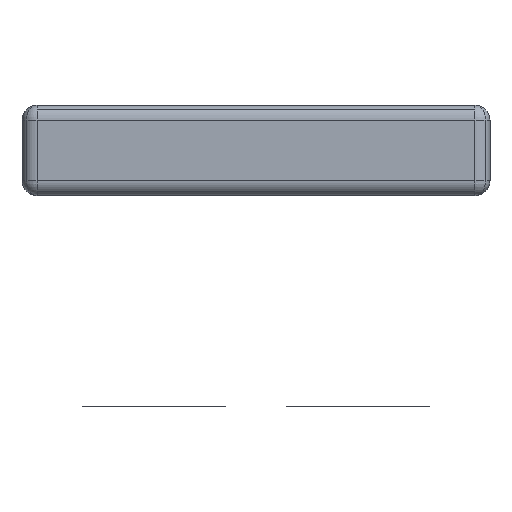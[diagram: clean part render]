
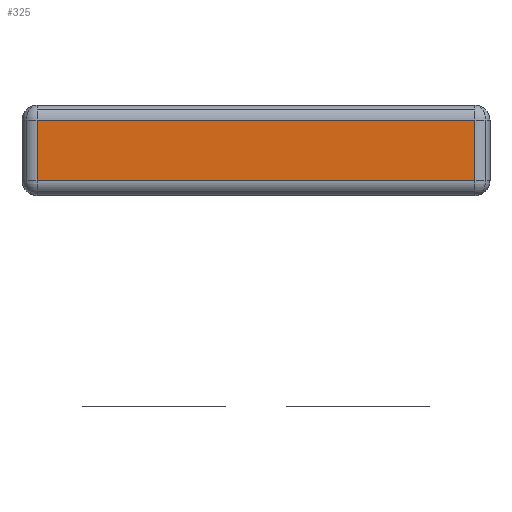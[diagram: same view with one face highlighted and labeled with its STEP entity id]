
A CAD part, front view. The second image highlights one B-rep face of the part: STEP entity #325.
In plain terms, the highlighted planar face has unit normal (0, -1, 0).
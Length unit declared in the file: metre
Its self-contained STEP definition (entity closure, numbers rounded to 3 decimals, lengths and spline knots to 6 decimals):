
#325=ADVANCED_FACE('0:402',(#836),#837,.T.);
#836=FACE_OUTER_BOUND('',#1407,.T.);
#837=PLANE('',#1408);
#1407=EDGE_LOOP('',(#3568,#3569,#3570,#3571));
#1408=AXIS2_PLACEMENT_3D('',#3572,#3573,#3574);
#3568=ORIENTED_EDGE('',*,*,#3859,.F.);
#3569=ORIENTED_EDGE('',*,*,#4347,.F.);
#3570=ORIENTED_EDGE('',*,*,#4348,.F.);
#3571=ORIENTED_EDGE('',*,*,#3753,.F.);
#3572=CARTESIAN_POINT('',(0.00775,0.0,0.0));
#3573=DIRECTION('',(0.0,-1.0,0.0));
#3574=DIRECTION('',(1.0,0.0,0.0));
#3753=EDGE_CURVE('4:33',#4461,#4463,#4464,.T.);
#3859=EDGE_CURVE('4:530',#4661,#4461,#4668,.T.);
#4347=EDGE_CURVE('4:24',#4440,#4661,#5419,.T.);
#4348=EDGE_CURVE('4:497',#4463,#4440,#5420,.T.);
#4440=VERTEX_POINT('',#5565);
#4461=VERTEX_POINT('',#5593);
#4463=VERTEX_POINT('',#5595);
#4464=LINE('',#5596,#5597);
#4661=VERTEX_POINT('',#5842);
#4668=LINE('',#5850,#5851);
#5419=LINE('',#6970,#6971);
#5420=LINE('',#6972,#6973);
#5565=CARTESIAN_POINT('',(0.015,0.0,0.0025));
#5593=CARTESIAN_POINT('',(0.0005,0.0,0.0005));
#5595=CARTESIAN_POINT('',(0.0005,0.0,0.0025));
#5596=CARTESIAN_POINT('',(0.0005,0.0,0.0));
#5597=VECTOR('',#7172,1.0);
#5842=CARTESIAN_POINT('',(0.015,0.0,0.0005));
#5850=CARTESIAN_POINT('',(0.003875,0.0,0.0005));
#5851=VECTOR('',#7390,1.0);
#6970=CARTESIAN_POINT('',(0.015,0.0,0.0));
#6971=VECTOR('',#8204,1.0);
#6972=CARTESIAN_POINT('',(0.003875,0.0,0.0025));
#6973=VECTOR('',#8205,1.0);
#7172=DIRECTION('',(0.0,0.0,1.0));
#7390=DIRECTION('',(-1.0,0.0,0.0));
#8204=DIRECTION('',(0.0,-0.0,-1.0));
#8205=DIRECTION('',(1.0,-0.0,-0.0));
